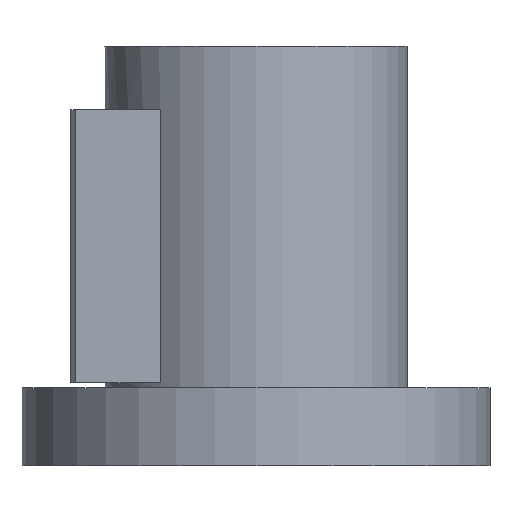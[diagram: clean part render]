
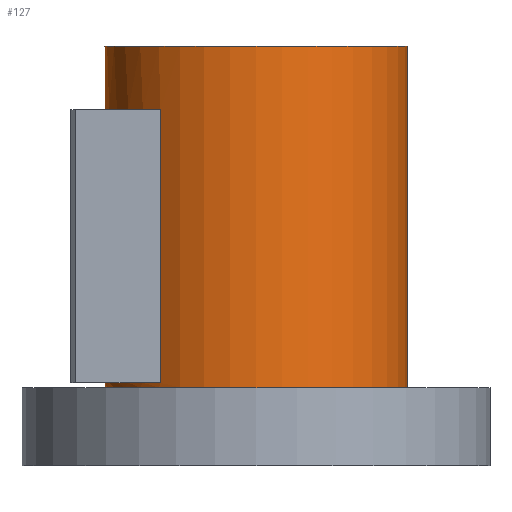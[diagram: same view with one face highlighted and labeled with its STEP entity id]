
A CAD part, front view. The second image highlights one B-rep face of the part: STEP entity #127.
In plain terms, the highlighted cylindrical face has radius 31 mm (diameter 62 mm), a full revolution.
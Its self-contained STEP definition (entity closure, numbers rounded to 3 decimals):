
#127=ADVANCED_FACE('',(#200,#201,#202),#155,.T.);
#155=CYLINDRICAL_SURFACE('',#508,31.);
#168=LINE('',#698,#184);
#169=LINE('',#702,#185);
#184=VECTOR('',#568,1.);
#185=VECTOR('',#571,1.);
#200=FACE_BOUND('',#245,.T.);
#201=FACE_BOUND('',#246,.T.);
#202=FACE_BOUND('',#247,.T.);
#245=EDGE_LOOP('',(#305));
#246=EDGE_LOOP('',(#306));
#247=EDGE_LOOP('',(#307,#308,#309,#310));
#305=ORIENTED_EDGE('',*,*,#431,.F.);
#306=ORIENTED_EDGE('',*,*,#432,.T.);
#307=ORIENTED_EDGE('',*,*,#433,.F.);
#308=ORIENTED_EDGE('',*,*,#434,.F.);
#309=ORIENTED_EDGE('',*,*,#435,.T.);
#310=ORIENTED_EDGE('',*,*,#436,.F.);
#393=VERTEX_POINT('',#692);
#394=VERTEX_POINT('',#694);
#395=VERTEX_POINT('',#696);
#396=VERTEX_POINT('',#697);
#397=VERTEX_POINT('',#699);
#398=VERTEX_POINT('',#701);
#431=EDGE_CURVE('',#393,#393,#475,.T.);
#432=EDGE_CURVE('',#394,#394,#476,.T.);
#433=EDGE_CURVE('',#395,#396,#477,.T.);
#434=EDGE_CURVE('',#397,#395,#168,.T.);
#435=EDGE_CURVE('',#397,#398,#478,.T.);
#436=EDGE_CURVE('',#396,#398,#169,.T.);
#475=CIRCLE('',#504,31.);
#476=CIRCLE('',#505,31.);
#477=CIRCLE('',#506,31.);
#478=CIRCLE('',#507,31.);
#504=AXIS2_PLACEMENT_3D('',#691,#562,#563);
#505=AXIS2_PLACEMENT_3D('',#693,#564,#565);
#506=AXIS2_PLACEMENT_3D('',#695,#566,#567);
#507=AXIS2_PLACEMENT_3D('',#700,#569,#570);
#508=AXIS2_PLACEMENT_3D('',#703,#572,#573);
#562=DIRECTION('',(0.,0.,1.));
#563=DIRECTION('',(1.,0.,0.));
#564=DIRECTION('',(0.,0.,1.));
#565=DIRECTION('',(1.,0.,0.));
#566=DIRECTION('',(0.,0.,-1.));
#567=DIRECTION('',(-1.,0.,0.));
#568=DIRECTION('',(0.,0.,1.));
#569=DIRECTION('',(0.,0.,-1.));
#570=DIRECTION('',(-1.,0.,0.));
#571=DIRECTION('',(0.,0.,-1.));
#572=DIRECTION('',(0.,0.,-1.));
#573=DIRECTION('',(-1.,0.,0.));
#691=CARTESIAN_POINT('',(0.,0.,86.));
#692=CARTESIAN_POINT('',(31.,0.,86.));
#693=CARTESIAN_POINT('',(0.,0.,16.));
#694=CARTESIAN_POINT('',(31.,0.,16.));
#695=CARTESIAN_POINT('',(0.,0.,73.));
#696=CARTESIAN_POINT('',(-19.621,-24.,73.));
#697=CARTESIAN_POINT('',(-19.621,24.,73.));
#698=CARTESIAN_POINT('',(-19.621,-24.,86.));
#699=CARTESIAN_POINT('',(-19.621,-24.,17.));
#700=CARTESIAN_POINT('',(0.,0.,17.));
#701=CARTESIAN_POINT('',(-19.621,24.,17.));
#702=CARTESIAN_POINT('',(-19.621,24.,86.));
#703=CARTESIAN_POINT('',(0.,0.,86.));
